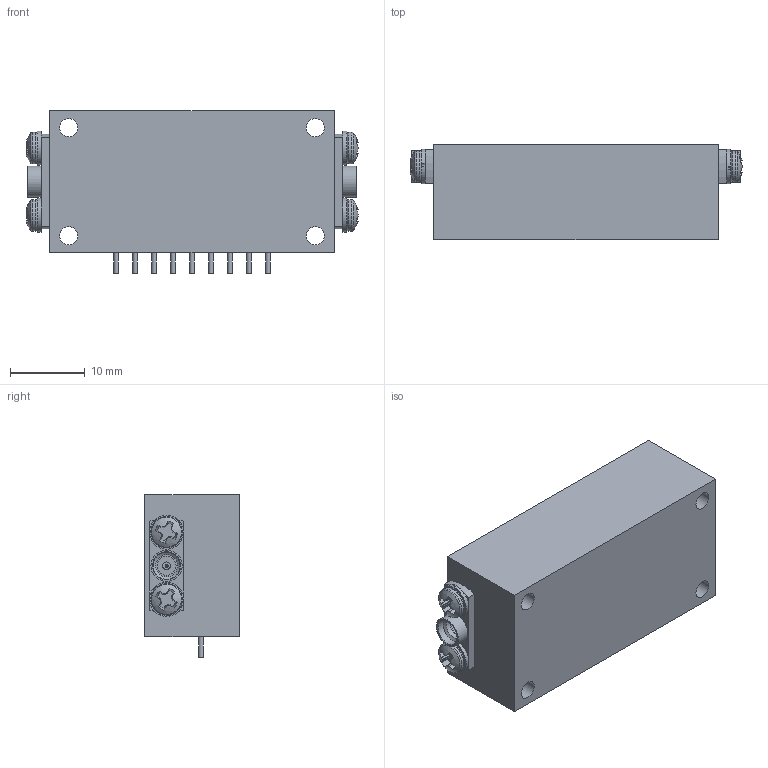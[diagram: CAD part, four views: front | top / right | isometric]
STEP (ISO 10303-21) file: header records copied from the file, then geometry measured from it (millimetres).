
FILE_DESCRIPTION (( 'STEP AP214' ), '1' );
FILE_NAME ('DTA-2G18G-31D5-6-SMP-HERM.STEP', '2026-07-23T21:02:59', ( '' ), ( '' ), 'SwSTEP 2.0', 'SolidWorks 2025', '' );
FILE_SCHEMA (( 'AUTOMOTIVE_DESIGN' ));
Length unit declared in the file: inch
Products named in the file (1): DTA-2G18G-31D5-6-SMP-HERM
Bounding box: 44.41 x 12.75 x 21.79 mm (x, y, z)
Volume: 9177.4 mm3; surface area: 5892.9 mm2
Topology: 23 solids, 23 shells, 620 faces, 2236 edges, 1865 vertices
Faces by surface type: plane 337, cylinder 175, torus 70, cone 30, sphere 8
Full cylindrical faces by diameter (mm): 0.305 x4, 0.635 x18, 0.889 x1, 1.016 x2, 1.321 x9, 1.676 x2, 1.778 x4, 1.93 x11, 2.032 x2, 2.057 x9, 2.184 x8, 2.438 x4, 2.464 x9, 2.54 x2, 2.616 x4, 2.946 x2, 3.175 x2, 3.607 x2, 3.937 x2, 4.166 x2, 4.242 x4
Entity records: 35248 total; most frequent: CARTESIAN_POINT 9519, ORIENTED_EDGE 4022, DIRECTION 3336, EDGE_CURVE 2011, VERTEX_POINT 1831, AXIS2_PLACEMENT_3D 1164, EDGE_LOOP 1036, LINE 1008
